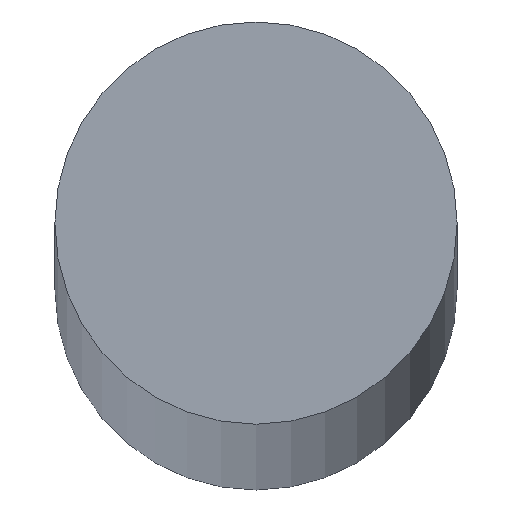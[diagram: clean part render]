
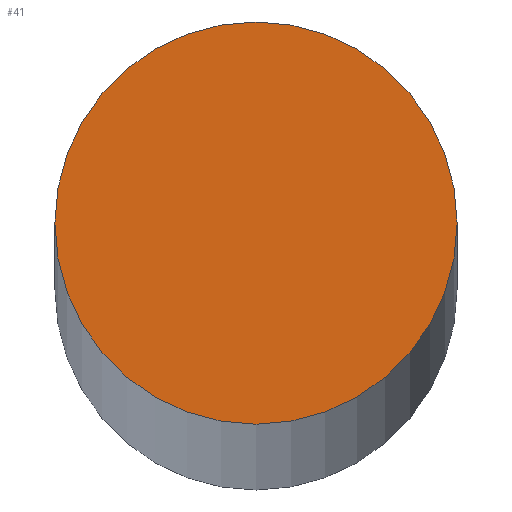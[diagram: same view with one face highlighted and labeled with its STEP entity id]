
A CAD part, top view. The second image highlights one B-rep face of the part: STEP entity #41.
In plain terms, the highlighted planar face has unit normal (0, 0, 1).
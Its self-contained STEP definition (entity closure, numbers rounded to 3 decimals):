
#16=PLANE('',#66);
#19=FACE_OUTER_BOUND('',#22,.T.);
#22=EDGE_LOOP('',(#37));
#25=CIRCLE('',#63,8.);
#27=VERTEX_POINT('',#82);
#29=EDGE_CURVE('',#27,#27,#25,.T.);
#37=ORIENTED_EDGE('',*,*,#29,.T.);
#41=ADVANCED_FACE('',(#19),#16,.T.);
#63=AXIS2_PLACEMENT_3D('',#83,#71,#72);
#66=AXIS2_PLACEMENT_3D('',#88,#78,#79);
#71=DIRECTION('center_axis',(0.,0.,1.));
#72=DIRECTION('ref_axis',(-1.,0.,0.));
#78=DIRECTION('center_axis',(0.,0.,1.));
#79=DIRECTION('ref_axis',(1.,0.,0.));
#82=CARTESIAN_POINT('',(8.,0.,1500.));
#83=CARTESIAN_POINT('Origin',(0.,0.,1500.));
#88=CARTESIAN_POINT('Origin',(0.,0.,
1500.));
